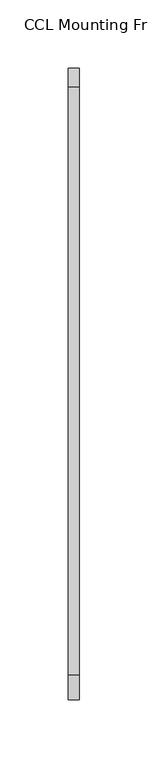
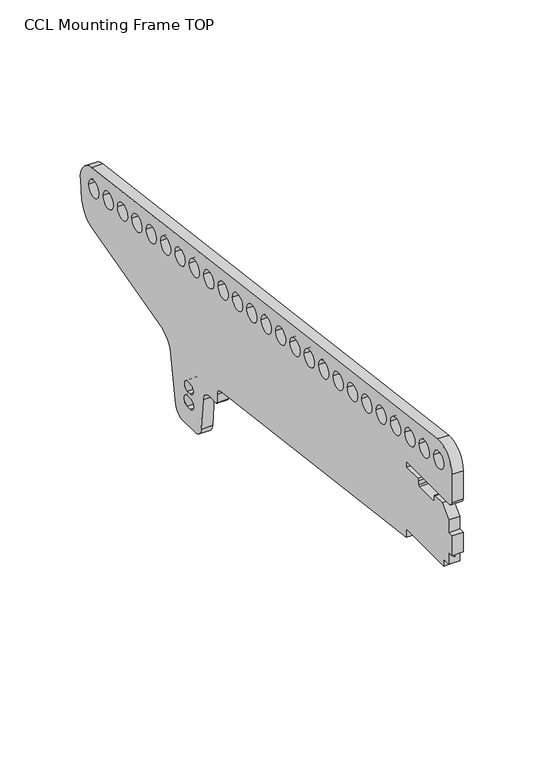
"""IFC4 building model written with IfcOpenShell, lengths in millimetres: proxy geometry, d&b CL-Series CCL Mounting Frame TOP : CCL Mounting Frame TOP."""

from ifc_helpers import new_model, si_unit, frame, origin, place, context, project, spatial, polyline, circle_curve, source, transform, mapped, element, save
from ifc_brep_helpers import plane_surface, cylinder_surface, revolved_surface, advanced_brep


def ccl_mounting_frame_top_1212049c(model_context):
    return source(origin(), model_context, "Body", "AdvancedBrep", [
        advanced_brep(
        [(4.0, 447.5191835, 40.9984373), (4.0, 18.0191835, 95.6377385), (4.0, 0.0, 79.7656593), (4.0, 0.0, 58.25), (4.0, 3.0, 55.25), (4.0, 56.5, 55.25), (4.0, 56.5, 50.75), (4.0, 42.5, 50.75), (4.0, 41.5, 49.75), (4.0, 41.5, 46.75), (4.0, 40.5, 45.75), (4.0, 23.0, 45.75), (4.0, 22.0, 46.75), (4.0, 22.0, 49.75), (4.0, 21.0, 50.75), (4.0, 12.0, 50.75), (4.0, 4.0, 42.75), (4.0, 4.0, 33.0), (4.0, 0.0, 33.0), (4.0, 0.0, 18.0), (4.0, 4.0, 18.0), (4.0, 4.0, 9.0), (4.0, 9.0, 9.0), (4.0, 10.0, 8.0), (4.0, 10.0, 4.0), (4.0, 56.5, 4.0), (4.0, 56.5, -2.3357687), (4.0, 287.4309948, -31.7139019), (4.0, 291.8, -36.6739266), (4.0, 291.8, -42.8), (4.0, 292.8, -43.8), (4.0, 301.1272837, -43.8), (4.0, 309.0968412, -51.1027541), (4.0, 311.1610918, -74.6972459), (4.0, 319.1306494, -82.0), (4.0, 335.087203, -82.0), (4.0, 342.965665, -75.3891854), (4.0, 349.1534198, -40.2966841), (4.0, 360.7692391, -27.6202417), (4.0, 447.8658924, -4.2827638), (4.0, 459.5968669, 9.1528659), (4.0, 461.3720792, 23.1071746), (4.0, 325.05, -49.15), (4.0, 328.55, -49.15), (4.0, 328.55, -56.45), (4.0, 325.05, -56.45), (4.0, 324.8, -60.1), (4.0, 328.8, -60.1), (4.0, 328.8, -67.9), (4.0, 324.8, -67.9), (4.0, 451.1518535, 26.1421065), (4.0, 438.6522274, 26.2104639), (4.0, 433.2957644, 28.4136879), (4.0, 420.7961383, 28.4820453), (4.0, 415.4396753, 30.6852694), (4.0, 402.9400492, 30.7536268), (4.0, 379.7274971, 35.2284323), (4.0, 367.227871, 35.2967897), (4.0, 361.8714081, 37.5000137), (4.0, 349.3717819, 37.5683711), (4.0, 344.015319, 39.7715952), (4.0, 331.5156928, 39.8399526), (4.0, 326.1592299, 42.0431766), (4.0, 313.6596037, 42.111534), (4.0, 308.3031408, 44.3147581), (4.0, 295.8035146, 44.3831154), (4.0, 290.4470517, 46.5863395), (4.0, 277.9474255, 46.6546969), (4.0, 272.5909626, 48.8579209), (4.0, 260.0913364, 48.9262783), (4.0, 254.7348735, 51.1295024), (4.0, 242.2352473, 51.1978598), (4.0, 236.8787844, 53.4010838), (4.0, 224.3791582, 53.4694412), (4.0, 219.0226953, 55.6726653), (4.0, 206.5230691, 55.7410227), (4.0, 201.1666062, 57.9442467), (4.0, 188.66698, 58.0126041), (4.0, 183.3105171, 60.2158282), (4.0, 170.8108909, 60.2841856), (4.0, 397.5835862, 32.9568508), (4.0, 385.0839601, 33.0252082), (4.0, 165.454428, 62.4874096), (4.0, 152.9548018, 62.555767), (4.0, 147.5983389, 64.7589911), (4.0, 135.0987128, 64.8273484), (4.0, 129.7422498, 67.0305725), (4.0, 117.2426237, 67.0989299), (4.0, 111.8861607, 69.3021539), (4.0, 99.3865346, 69.3705113), (4.0, 94.0300716, 71.5737354), (4.0, 81.5304455, 71.6420928), (4.0, 76.1739825, 73.8453168), (4.0, 63.6743564, 73.9136742), (4.0, 58.3178935, 76.1168983), (4.0, 45.8182673, 76.1852557), (4.0, 40.4618044, 78.3884797), (4.0, 27.9621782, 78.4568371), (4.0, 22.6057153, 80.6600612), (4.0, 10.1060891, 80.7284186), (-4.0, 447.5191835, 40.9984373), (-4.0, 461.3720792, 23.1071746), (-4.0, 459.5968669, 9.1528659), (-4.0, 447.8658924, -4.2827638), (-4.0, 360.7692391, -27.6202417), (-4.0, 349.1534198, -40.2966841), (-4.0, 342.965665, -75.3891854), (-4.0, 335.087203, -82.0), (-4.0, 319.1306494, -82.0), (-4.0, 311.1610918, -74.6972459), (-4.0, 309.0968412, -51.1027541), (-4.0, 301.1272837, -43.8), (-4.0, 292.8, -43.8), (-4.0, 291.8, -42.8), (-4.0, 291.8, -36.6739266), (-4.0, 287.4309948, -31.7139019), (-4.0, 56.5, -2.3357687), (-4.0, 56.5, 4.0), (-4.0, 10.0, 4.0), (-4.0, 10.0, 8.0), (-4.0, 9.0, 9.0), (-4.0, 4.0, 9.0), (-4.0, 4.0, 18.0), (-4.0, 0.0, 18.0), (-4.0, 0.0, 33.0), (-4.0, 4.0, 33.0), (-4.0, 4.0, 42.75), (-4.0, 12.0, 50.75), (-4.0, 21.0, 50.75), (-4.0, 22.0, 49.75), (-4.0, 22.0, 46.75), (-4.0, 23.0, 45.75), (-4.0, 40.5, 45.75), (-4.0, 41.5, 46.75), (-4.0, 41.5, 49.75), (-4.0, 42.5, 50.75), (-4.0, 56.5, 50.75), (-4.0, 56.5, 55.25), (-4.0, 3.0, 55.25), (-4.0, 0.0, 58.25), (-4.0, 0.0, 79.7656593), (-4.0, 18.0191835, 95.6377385), (-4.0, 325.05, -49.15), (-4.0, 325.05, -56.45), (-4.0, 328.55, -56.45), (-4.0, 328.55, -49.15), (-4.0, 324.8, -60.1), (-4.0, 324.8, -67.9), (-4.0, 328.8, -67.9), (-4.0, 328.8, -60.1), (-4.0, 451.1518535, 26.1421065), (-4.0, 438.6537226, 26.3471705), (-4.0, 433.2957644, 28.4136879), (-4.0, 420.7976335, 28.6187519), (-4.0, 415.4396753, 30.6852694), (-4.0, 402.9415444, 30.8903334), (-4.0, 379.7274971, 35.2284323), (-4.0, 367.2293663, 35.4334963), (-4.0, 361.8714081, 37.5000137), (-4.0, 349.3732772, 37.7050777), (-4.0, 344.015319, 39.7715952), (-4.0, 331.5171881, 39.9766592), (-4.0, 326.1592299, 42.0431766), (-4.0, 313.661099, 42.2482406), (-4.0, 308.3031408, 44.3147581), (-4.0, 295.8050099, 44.519822), (-4.0, 290.4470517, 46.5863395), (-4.0, 277.9489208, 46.7914035), (-4.0, 272.5909626, 48.8579209), (-4.0, 260.0928317, 49.0629849), (-4.0, 254.7348735, 51.1295024), (-4.0, 242.2367426, 51.3345664), (-4.0, 236.8787844, 53.4010838), (-4.0, 224.3806535, 53.6061478), (-4.0, 219.0226953, 55.6726653), (-4.0, 206.5245644, 55.8777293), (-4.0, 201.1666062, 57.9442467), (-4.0, 188.6684753, 58.1493107), (-4.0, 183.3105171, 60.2158282), (-4.0, 170.8123862, 60.4208922), (-4.0, 397.5835862, 32.9568508), (-4.0, 385.0854553, 33.1619148), (-4.0, 165.454428, 62.4874096), (-4.0, 152.9562971, 62.6924736), (-4.0, 147.5983389, 64.7589911), (-4.0, 135.100208, 64.964055), (-4.0, 129.7422498, 67.0305725), (-4.0, 117.2441189, 67.2356365), (-4.0, 111.8861607, 69.3021539), (-4.0, 99.3880298, 69.5072179), (-4.0, 94.0300716, 71.5737354), (-4.0, 81.5319407, 71.7787994), (-4.0, 76.1739825, 73.8453168), (-4.0, 63.6758517, 74.0503808), (-4.0, 58.3178935, 76.1168983), (-4.0, 45.8197626, 76.3219623), (-4.0, 40.4618044, 78.3884797), (-4.0, 27.9636735, 78.5935437), (-4.0, 22.6057153, 80.6600612), (-4.0, 10.1075844, 80.8651252)],
        [
            (0, 1),
            (1, 2, circle_curve(frame((4.0, 16.0, 79.7656593), z_axis=(1.0, 0.0, 0.0), x_axis=(0.0, 1.0, 0.0)), 16.0)),
            (2, 3),
            (3, 4, circle_curve(frame((4.0, 3.0, 58.25), z_axis=(1.0, 0.0, 0.0), x_axis=(0.0, 1.0, 0.0)), 3.0)),
            (4, 5),
            (5, 6),
            (6, 7),
            (7, 8, circle_curve(frame((4.0, 42.5, 49.75), z_axis=(1.0, 0.0, 0.0), x_axis=(0.0, 1.0, 0.0)), 1.0)),
            (8, 9),
            (9, 10, circle_curve(frame((4.0, 40.5, 46.75), z_axis=(-1.0, 0.0, 0.0), x_axis=(0.0, 1.0, 0.0)), 1.0)),
            (10, 11),
            (11, 12, circle_curve(frame((4.0, 23.0, 46.75), z_axis=(-1.0, 0.0, 0.0), x_axis=(0.0, 1.0, 0.0)), 1.0)),
            (12, 13),
            (13, 14, circle_curve(frame((4.0, 21.0, 49.75), z_axis=(1.0, 0.0, 0.0), x_axis=(0.0, 1.0, 0.0)), 1.0)),
            (14, 15),
            (15, 16),
            (16, 17),
            (17, 18),
            (18, 19),
            (19, 20),
            (20, 21),
            (21, 22),
            (22, 23, circle_curve(frame((4.0, 9.0, 8.0), z_axis=(-1.0, 0.0, 0.0), x_axis=(0.0, 1.0, 0.0)), 1.0)),
            (23, 24),
            (24, 25),
            (25, 26),
            (26, 27),
            (27, 28, circle_curve(frame((4.0, 286.8, -36.6739266), z_axis=(-1.0, 0.0, 0.0), x_axis=(0.0, 1.0, 0.0)), 5.0)),
            (28, 29),
            (29, 30, circle_curve(frame((4.0, 292.8, -42.8), z_axis=(1.0, 0.0, 0.0), x_axis=(0.0, 1.0, 0.0)), 1.0)),
            (30, 31),
            (31, 32, circle_curve(frame((4.0, 301.1272837, -51.8), z_axis=(-1.0, 0.0, 0.0), x_axis=(0.0, 1.0, 0.0)), 8.0)),
            (32, 33),
            (33, 34, circle_curve(frame((4.0, 319.1306494, -74.0), z_axis=(1.0, 0.0, 0.0), x_axis=(0.0, 1.0, 0.0)), 8.0)),
            (34, 35),
            (35, 36, circle_curve(frame((4.0, 335.087203, -74.0), z_axis=(1.0, 0.0, 0.0), x_axis=(0.0, 1.0, 0.0)), 8.0)),
            (36, 37),
            (37, 38, circle_curve(frame((4.0, 364.9103438, -43.0750549), z_axis=(-1.0, 0.0, 0.0), x_axis=(0.0, 1.0, 0.0)), 16.0)),
            (38, 39),
            (39, 40, circle_curve(frame((4.0, 443.7247877, 11.1720494), z_axis=(1.0, 0.0, 0.0), x_axis=(0.0, 1.0, 0.0)), 16.0)),
            (40, 41),
            (41, 0, circle_curve(frame((4.0, 445.5, 25.1263581), z_axis=(1.0, 0.0, 0.0), x_axis=(0.0, 1.0, 0.0)), 16.0)),
            (42, 43),
            (43, 44, circle_curve(frame((4.0, 328.55, -52.8), z_axis=(-1.0, 0.0, 0.0), x_axis=(0.0, 1.0, 0.0)), 3.65)),
            (44, 45),
            (45, 42, circle_curve(frame((4.0, 325.05, -52.8), z_axis=(-1.0, 0.0, 0.0), x_axis=(0.0, 1.0, 0.0)), 3.65)),
            (46, 47),
            (47, 48, circle_curve(frame((4.0, 328.8, -64.0), z_axis=(-1.0, 0.0, 0.0), x_axis=(0.0, 1.0, 0.0)), 3.9)),
            (48, 49),
            (49, 46, circle_curve(frame((4.0, 324.8, -64.0), z_axis=(-1.0, 0.0, 0.0), x_axis=(0.0, 1.0, 0.0)), 3.9)),
            (50, 51, circle_curve(frame((4.0, 444.9022274, 26.2104639), z_axis=(-1.0, 0.0, 0.0), x_axis=(0.0, 1.0, 0.0)), 6.25)),
            (51, 50, circle_curve(frame((4.0, 444.9022274, 26.2104639), z_axis=(-1.0, 0.0, 0.0), x_axis=(0.0, 1.0, 0.0)), 6.25)),
            (52, 53, circle_curve(frame((4.0, 427.0461383, 28.4820453), z_axis=(-1.0, 0.0, 0.0), x_axis=(0.0, 1.0, 0.0)), 6.25)),
            (53, 52, circle_curve(frame((4.0, 427.0461383, 28.4820453), z_axis=(-1.0, 0.0, 0.0), x_axis=(0.0, 1.0, 0.0)), 6.25)),
            (54, 55, circle_curve(frame((4.0, 409.1900492, 30.7536268), z_axis=(-1.0, 0.0, 0.0), x_axis=(0.0, 1.0, 0.0)), 6.25)),
            (55, 54, circle_curve(frame((4.0, 409.1900492, 30.7536268), z_axis=(-1.0, 0.0, 0.0), x_axis=(0.0, 1.0, 0.0)), 6.25)),
            (56, 57, circle_curve(frame((4.0, 373.477871, 35.2967897), z_axis=(-1.0, 0.0, 0.0), x_axis=(0.0, 1.0, 0.0)), 6.25)),
            (57, 56, circle_curve(frame((4.0, 373.477871, 35.2967897), z_axis=(-1.0, 0.0, 0.0), x_axis=(0.0, 1.0, 0.0)), 6.25)),
            (58, 59, circle_curve(frame((4.0, 355.6217819, 37.5683711), z_axis=(-1.0, 0.0, 0.0), x_axis=(0.0, 1.0, 0.0)), 6.25)),
            (59, 58, circle_curve(frame((4.0, 355.6217819, 37.5683711), z_axis=(-1.0, 0.0, 0.0), x_axis=(0.0, 1.0, 0.0)), 6.25)),
            (60, 61, circle_curve(frame((4.0, 337.7656928, 39.8399526), z_axis=(-1.0, 0.0, 0.0), x_axis=(0.0, 1.0, 0.0)), 6.25)),
            (61, 60, circle_curve(frame((4.0, 337.7656928, 39.8399526), z_axis=(-1.0, 0.0, 0.0), x_axis=(0.0, 1.0, 0.0)), 6.25)),
            (62, 63, circle_curve(frame((4.0, 319.9096037, 42.111534), z_axis=(-1.0, 0.0, 0.0), x_axis=(0.0, 1.0, 0.0)), 6.25)),
            (63, 62, circle_curve(frame((4.0, 319.9096037, 42.111534), z_axis=(-1.0, 0.0, 0.0), x_axis=(0.0, 1.0, 0.0)), 6.25)),
            (64, 65, circle_curve(frame((4.0, 302.0535146, 44.3831154), z_axis=(-1.0, 0.0, 0.0), x_axis=(0.0, 1.0, 0.0)), 6.25)),
            (65, 64, circle_curve(frame((4.0, 302.0535146, 44.3831154), z_axis=(-1.0, 0.0, 0.0), x_axis=(0.0, 1.0, 0.0)), 6.25)),
            (66, 67, circle_curve(frame((4.0, 284.1974255, 46.6546969), z_axis=(-1.0, 0.0, 0.0), x_axis=(0.0, 1.0, 0.0)), 6.25)),
            (67, 66, circle_curve(frame((4.0, 284.1974255, 46.6546969), z_axis=(-1.0, 0.0, 0.0), x_axis=(0.0, 1.0, 0.0)), 6.25)),
            (68, 69, circle_curve(frame((4.0, 266.3413364, 48.9262783), z_axis=(-1.0, 0.0, 0.0), x_axis=(0.0, 1.0, 0.0)), 6.25)),
            (69, 68, circle_curve(frame((4.0, 266.3413364, 48.9262783), z_axis=(-1.0, 0.0, 0.0), x_axis=(0.0, 1.0, 0.0)), 6.25)),
            (70, 71, circle_curve(frame((4.0, 248.4852473, 51.1978598), z_axis=(-1.0, 0.0, 0.0), x_axis=(0.0, 1.0, 0.0)), 6.25)),
            (71, 70, circle_curve(frame((4.0, 248.4852473, 51.1978598), z_axis=(-1.0, 0.0, 0.0), x_axis=(0.0, 1.0, 0.0)), 6.25)),
            (72, 73, circle_curve(frame((4.0, 230.6291582, 53.4694412), z_axis=(-1.0, 0.0, 0.0), x_axis=(0.0, 1.0, 0.0)), 6.25)),
            (73, 72, circle_curve(frame((4.0, 230.6291582, 53.4694412), z_axis=(-1.0, 0.0, 0.0), x_axis=(0.0, 1.0, 0.0)), 6.25)),
            (74, 75, circle_curve(frame((4.0, 212.7730691, 55.7410227), z_axis=(-1.0, 0.0, 0.0), x_axis=(0.0, 1.0, 0.0)), 6.25)),
            (75, 74, circle_curve(frame((4.0, 212.7730691, 55.7410227), z_axis=(-1.0, 0.0, 0.0), x_axis=(0.0, 1.0, 0.0)), 6.25)),
            (76, 77, circle_curve(frame((4.0, 194.91698, 58.0126041), z_axis=(-1.0, 0.0, 0.0), x_axis=(0.0, 1.0, 0.0)), 6.25)),
            (77, 76, circle_curve(frame((4.0, 194.91698, 58.0126041), z_axis=(-1.0, 0.0, 0.0), x_axis=(0.0, 1.0, 0.0)), 6.25)),
            (78, 79, circle_curve(frame((4.0, 177.0608909, 60.2841856), z_axis=(-1.0, 0.0, 0.0), x_axis=(0.0, 1.0, 0.0)), 6.25)),
            (79, 78, circle_curve(frame((4.0, 177.0608909, 60.2841856), z_axis=(-1.0, 0.0, 0.0), x_axis=(0.0, 1.0, 0.0)), 6.25)),
            (80, 81, circle_curve(frame((4.0, 391.3339601, 33.0252082), z_axis=(-1.0, 0.0, 0.0), x_axis=(0.0, 1.0, 0.0)), 6.25)),
            (81, 80, circle_curve(frame((4.0, 391.3339601, 33.0252082), z_axis=(-1.0, 0.0, 0.0), x_axis=(0.0, 1.0, 0.0)), 6.25)),
            (82, 83, circle_curve(frame((4.0, 159.2048018, 62.555767), z_axis=(-1.0, 0.0, 0.0), x_axis=(0.0, 1.0, 0.0)), 6.25)),
            (83, 82, circle_curve(frame((4.0, 159.2048018, 62.555767), z_axis=(-1.0, 0.0, 0.0), x_axis=(0.0, 1.0, 0.0)), 6.25)),
            (84, 85, circle_curve(frame((4.0, 141.3487128, 64.8273484), z_axis=(-1.0, 0.0, 0.0), x_axis=(0.0, 1.0, 0.0)), 6.25)),
            (85, 84, circle_curve(frame((4.0, 141.3487128, 64.8273484), z_axis=(-1.0, 0.0, 0.0), x_axis=(0.0, 1.0, 0.0)), 6.25)),
            (86, 87, circle_curve(frame((4.0, 123.4926237, 67.0989299), z_axis=(-1.0, 0.0, 0.0), x_axis=(0.0, 1.0, 0.0)), 6.25)),
            (87, 86, circle_curve(frame((4.0, 123.4926237, 67.0989299), z_axis=(-1.0, 0.0, 0.0), x_axis=(0.0, 1.0, 0.0)), 6.25)),
            (88, 89, circle_curve(frame((4.0, 105.6365346, 69.3705113), z_axis=(-1.0, 0.0, 0.0), x_axis=(0.0, 1.0, 0.0)), 6.25)),
            (89, 88, circle_curve(frame((4.0, 105.6365346, 69.3705113), z_axis=(-1.0, 0.0, 0.0), x_axis=(0.0, 1.0, 0.0)), 6.25)),
            (90, 91, circle_curve(frame((4.0, 87.7804455, 71.6420928), z_axis=(-1.0, 0.0, 0.0), x_axis=(0.0, 1.0, 0.0)), 6.25)),
            (91, 90, circle_curve(frame((4.0, 87.7804455, 71.6420928), z_axis=(-1.0, 0.0, 0.0), x_axis=(0.0, 1.0, 0.0)), 6.25)),
            (92, 93, circle_curve(frame((4.0, 69.9243564, 73.9136742), z_axis=(-1.0, 0.0, 0.0), x_axis=(0.0, 1.0, 0.0)), 6.25)),
            (93, 92, circle_curve(frame((4.0, 69.9243564, 73.9136742), z_axis=(-1.0, 0.0, 0.0), x_axis=(0.0, 1.0, 0.0)), 6.25)),
            (94, 95, circle_curve(frame((4.0, 52.0682673, 76.1852557), z_axis=(-1.0, 0.0, 0.0), x_axis=(0.0, 1.0, 0.0)), 6.25)),
            (95, 94, circle_curve(frame((4.0, 52.0682673, 76.1852557), z_axis=(-1.0, 0.0, 0.0), x_axis=(0.0, 1.0, 0.0)), 6.25)),
            (96, 97, circle_curve(frame((4.0, 34.2121782, 78.4568371), z_axis=(-1.0, 0.0, 0.0), x_axis=(0.0, 1.0, 0.0)), 6.25)),
            (97, 96, circle_curve(frame((4.0, 34.2121782, 78.4568371), z_axis=(-1.0, 0.0, 0.0), x_axis=(0.0, 1.0, 0.0)), 6.25)),
            (98, 99, circle_curve(frame((4.0, 16.3560891, 80.7284186), z_axis=(-1.0, 0.0, 0.0), x_axis=(0.0, 1.0, 0.0)), 6.25)),
            (99, 98, circle_curve(frame((4.0, 16.3560891, 80.7284186), z_axis=(-1.0, 0.0, 0.0), x_axis=(0.0, 1.0, 0.0)), 6.25)),
            (100, 101, circle_curve(frame((-4.0, 445.5, 25.1263581), z_axis=(-1.0, 0.0, 0.0), x_axis=(0.0, 1.0, 0.0)), 16.0)),
            (101, 102),
            (102, 103, circle_curve(frame((-4.0, 443.7247877, 11.1720494), z_axis=(-1.0, 0.0, 0.0), x_axis=(0.0, 1.0, 0.0)), 16.0)),
            (103, 104),
            (104, 105, circle_curve(frame((-4.0, 364.9103438, -43.0750549), z_axis=(1.0, 0.0, 0.0), x_axis=(0.0, 1.0, 0.0)), 16.0)),
            (105, 106),
            (106, 107, circle_curve(frame((-4.0, 335.087203, -74.0), z_axis=(-1.0, 0.0, 0.0), x_axis=(0.0, 1.0, 0.0)), 8.0)),
            (107, 108),
            (108, 109, circle_curve(frame((-4.0, 319.1306494, -74.0), z_axis=(-1.0, 0.0, 0.0), x_axis=(0.0, 1.0, 0.0)), 8.0)),
            (109, 110),
            (110, 111, circle_curve(frame((-4.0, 301.1272837, -51.8), z_axis=(1.0, 0.0, 0.0), x_axis=(0.0, 1.0, 0.0)), 8.0)),
            (111, 112),
            (112, 113, circle_curve(frame((-4.0, 292.8, -42.8), z_axis=(-1.0, 0.0, 0.0), x_axis=(0.0, 1.0, 0.0)), 1.0)),
            (113, 114),
            (114, 115, circle_curve(frame((-4.0, 286.8, -36.6739266), z_axis=(1.0, 0.0, 0.0), x_axis=(0.0, 1.0, 0.0)), 5.0)),
            (115, 116),
            (116, 117),
            (117, 118),
            (118, 119),
            (119, 120, circle_curve(frame((-4.0, 9.0, 8.0), z_axis=(1.0, 0.0, 0.0), x_axis=(0.0, 1.0, 0.0)), 1.0)),
            (120, 121),
            (121, 122),
            (122, 123),
            (123, 124),
            (124, 125),
            (125, 126),
            (126, 127),
            (127, 128),
            (128, 129, circle_curve(frame((-4.0, 21.0, 49.75), z_axis=(-1.0, 0.0, 0.0), x_axis=(0.0, 1.0, 0.0)), 1.0)),
            (129, 130),
            (130, 131, circle_curve(frame((-4.0, 23.0, 46.75), z_axis=(1.0, 0.0, 0.0), x_axis=(0.0, 1.0, 0.0)), 1.0)),
            (131, 132),
            (132, 133, circle_curve(frame((-4.0, 40.5, 46.75), z_axis=(1.0, 0.0, 0.0), x_axis=(0.0, 1.0, 0.0)), 1.0)),
            (133, 134),
            (134, 135, circle_curve(frame((-4.0, 42.5, 49.75), z_axis=(-1.0, 0.0, 0.0), x_axis=(0.0, 1.0, 0.0)), 1.0)),
            (135, 136),
            (136, 137),
            (137, 138),
            (138, 139, circle_curve(frame((-4.0, 3.0, 58.25), z_axis=(-1.0, 0.0, 0.0), x_axis=(0.0, 1.0, 0.0)), 3.0)),
            (139, 140),
            (140, 141, circle_curve(frame((-4.0, 16.0, 79.7656593), z_axis=(-1.0, 0.0, 0.0), x_axis=(0.0, 1.0, 0.0)), 16.0)),
            (141, 100),
            (142, 143, circle_curve(frame((-4.0, 325.05, -52.8), z_axis=(1.0, 0.0, 0.0), x_axis=(0.0, 1.0, 0.0)), 3.65)),
            (143, 144),
            (144, 145, circle_curve(frame((-4.0, 328.55, -52.8), z_axis=(1.0, 0.0, 0.0), x_axis=(0.0, 1.0, 0.0)), 3.65)),
            (145, 142),
            (146, 147, circle_curve(frame((-4.0, 324.8, -64.0), z_axis=(1.0, 0.0, 0.0), x_axis=(0.0, 1.0, 0.0)), 3.9)),
            (147, 148),
            (148, 149, circle_curve(frame((-4.0, 328.8, -64.0), z_axis=(1.0, 0.0, 0.0), x_axis=(0.0, 1.0, 0.0)), 3.9)),
            (149, 146),
            (150, 151, circle_curve(frame((-4.0, 444.9022274, 26.2104639), z_axis=(1.0, 0.0, 0.0), x_axis=(0.0, 1.0, 0.0)), 6.25)),
            (151, 150, circle_curve(frame((-4.0, 444.9022274, 26.2104639), z_axis=(1.0, 0.0, 0.0), x_axis=(0.0, 1.0, 0.0)), 6.25)),
            (152, 153, circle_curve(frame((-4.0, 427.0461383, 28.4820453), z_axis=(1.0, 0.0, 0.0), x_axis=(0.0, 1.0, 0.0)), 6.25)),
            (153, 152, circle_curve(frame((-4.0, 427.0461383, 28.4820453), z_axis=(1.0, 0.0, 0.0), x_axis=(0.0, 1.0, 0.0)), 6.25)),
            (154, 155, circle_curve(frame((-4.0, 409.1900492, 30.7536268), z_axis=(1.0, 0.0, 0.0), x_axis=(0.0, 1.0, 0.0)), 6.25)),
            (155, 154, circle_curve(frame((-4.0, 409.1900492, 30.7536268), z_axis=(1.0, 0.0, 0.0), x_axis=(0.0, 1.0, 0.0)), 6.25)),
            (156, 157, circle_curve(frame((-4.0, 373.477871, 35.2967897), z_axis=(1.0, 0.0, 0.0), x_axis=(0.0, 1.0, 0.0)), 6.25)),
            (157, 156, circle_curve(frame((-4.0, 373.477871, 35.2967897), z_axis=(1.0, 0.0, 0.0), x_axis=(0.0, 1.0, 0.0)), 6.25)),
            (158, 159, circle_curve(frame((-4.0, 355.6217819, 37.5683711), z_axis=(1.0, 0.0, 0.0), x_axis=(0.0, 1.0, 0.0)), 6.25)),
            (159, 158, circle_curve(frame((-4.0, 355.6217819, 37.5683711), z_axis=(1.0, 0.0, 0.0), x_axis=(0.0, 1.0, 0.0)), 6.25)),
            (160, 161, circle_curve(frame((-4.0, 337.7656928, 39.8399526), z_axis=(1.0, 0.0, 0.0), x_axis=(0.0, 1.0, 0.0)), 6.25)),
            (161, 160, circle_curve(frame((-4.0, 337.7656928, 39.8399526), z_axis=(1.0, 0.0, 0.0), x_axis=(0.0, 1.0, 0.0)), 6.25)),
            (162, 163, circle_curve(frame((-4.0, 319.9096037, 42.111534), z_axis=(1.0, 0.0, 0.0), x_axis=(0.0, 1.0, 0.0)), 6.25)),
            (163, 162, circle_curve(frame((-4.0, 319.9096037, 42.111534), z_axis=(1.0, 0.0, 0.0), x_axis=(0.0, 1.0, 0.0)), 6.25)),
            (164, 165, circle_curve(frame((-4.0, 302.0535146, 44.3831154), z_axis=(1.0, 0.0, 0.0), x_axis=(0.0, 1.0, 0.0)), 6.25)),
            (165, 164, circle_curve(frame((-4.0, 302.0535146, 44.3831154), z_axis=(1.0, 0.0, 0.0), x_axis=(0.0, 1.0, 0.0)), 6.25)),
            (166, 167, circle_curve(frame((-4.0, 284.1974255, 46.6546969), z_axis=(1.0, 0.0, 0.0), x_axis=(0.0, 1.0, 0.0)), 6.25)),
            (167, 166, circle_curve(frame((-4.0, 284.1974255, 46.6546969), z_axis=(1.0, 0.0, 0.0), x_axis=(0.0, 1.0, 0.0)), 6.25)),
            (168, 169, circle_curve(frame((-4.0, 266.3413364, 48.9262783), z_axis=(1.0, 0.0, 0.0), x_axis=(0.0, 1.0, 0.0)), 6.25)),
            (169, 168, circle_curve(frame((-4.0, 266.3413364, 48.9262783), z_axis=(1.0, 0.0, 0.0), x_axis=(0.0, 1.0, 0.0)), 6.25)),
            (170, 171, circle_curve(frame((-4.0, 248.4852473, 51.1978598), z_axis=(1.0, 0.0, 0.0), x_axis=(0.0, 1.0, 0.0)), 6.25)),
            (171, 170, circle_curve(frame((-4.0, 248.4852473, 51.1978598), z_axis=(1.0, 0.0, 0.0), x_axis=(0.0, 1.0, 0.0)), 6.25)),
            (172, 173, circle_curve(frame((-4.0, 230.6291582, 53.4694412), z_axis=(1.0, 0.0, 0.0), x_axis=(0.0, 1.0, 0.0)), 6.25)),
            (173, 172, circle_curve(frame((-4.0, 230.6291582, 53.4694412), z_axis=(1.0, 0.0, 0.0), x_axis=(0.0, 1.0, 0.0)), 6.25)),
            (174, 175, circle_curve(frame((-4.0, 212.7730691, 55.7410227), z_axis=(1.0, 0.0, 0.0), x_axis=(0.0, 1.0, 0.0)), 6.25)),
            (175, 174, circle_curve(frame((-4.0, 212.7730691, 55.7410227), z_axis=(1.0, 0.0, 0.0), x_axis=(0.0, 1.0, 0.0)), 6.25)),
            (176, 177, circle_curve(frame((-4.0, 194.91698, 58.0126041), z_axis=(1.0, 0.0, 0.0), x_axis=(0.0, 1.0, 0.0)), 6.25)),
            (177, 176, circle_curve(frame((-4.0, 194.91698, 58.0126041), z_axis=(1.0, 0.0, 0.0), x_axis=(0.0, 1.0, 0.0)), 6.25)),
            (178, 179, circle_curve(frame((-4.0, 177.0608909, 60.2841856), z_axis=(1.0, 0.0, 0.0), x_axis=(0.0, 1.0, 0.0)), 6.25)),
            (179, 178, circle_curve(frame((-4.0, 177.0608909, 60.2841856), z_axis=(1.0, 0.0, 0.0), x_axis=(0.0, 1.0, 0.0)), 6.25)),
            (180, 181, circle_curve(frame((-4.0, 391.3339601, 33.0252082), z_axis=(1.0, 0.0, 0.0), x_axis=(0.0, 1.0, 0.0)), 6.25)),
            (181, 180, circle_curve(frame((-4.0, 391.3339601, 33.0252082), z_axis=(1.0, 0.0, 0.0), x_axis=(0.0, 1.0, 0.0)), 6.25)),
            (182, 183, circle_curve(frame((-4.0, 159.2048018, 62.555767), z_axis=(1.0, 0.0, 0.0), x_axis=(0.0, 1.0, 0.0)), 6.25)),
            (183, 182, circle_curve(frame((-4.0, 159.2048018, 62.555767), z_axis=(1.0, 0.0, 0.0), x_axis=(0.0, 1.0, 0.0)), 6.25)),
            (184, 185, circle_curve(frame((-4.0, 141.3487128, 64.8273484), z_axis=(1.0, 0.0, 0.0), x_axis=(0.0, 1.0, 0.0)), 6.25)),
            (185, 184, circle_curve(frame((-4.0, 141.3487128, 64.8273484), z_axis=(1.0, 0.0, 0.0), x_axis=(0.0, 1.0, 0.0)), 6.25)),
            (186, 187, circle_curve(frame((-4.0, 123.4926237, 67.0989299), z_axis=(1.0, 0.0, 0.0), x_axis=(0.0, 1.0, 0.0)), 6.25)),
            (187, 186, circle_curve(frame((-4.0, 123.4926237, 67.0989299), z_axis=(1.0, 0.0, 0.0), x_axis=(0.0, 1.0, 0.0)), 6.25)),
            (188, 189, circle_curve(frame((-4.0, 105.6365346, 69.3705113), z_axis=(1.0, 0.0, 0.0), x_axis=(0.0, 1.0, 0.0)), 6.25)),
            (189, 188, circle_curve(frame((-4.0, 105.6365346, 69.3705113), z_axis=(1.0, 0.0, 0.0), x_axis=(0.0, 1.0, 0.0)), 6.25)),
            (190, 191, circle_curve(frame((-4.0, 87.7804455, 71.6420928), z_axis=(1.0, 0.0, 0.0), x_axis=(0.0, 1.0, 0.0)), 6.25)),
            (191, 190, circle_curve(frame((-4.0, 87.7804455, 71.6420928), z_axis=(1.0, 0.0, 0.0), x_axis=(0.0, 1.0, 0.0)), 6.25)),
            (192, 193, circle_curve(frame((-4.0, 69.9243564, 73.9136742), z_axis=(1.0, 0.0, 0.0), x_axis=(0.0, 1.0, 0.0)), 6.25)),
            (193, 192, circle_curve(frame((-4.0, 69.9243564, 73.9136742), z_axis=(1.0, 0.0, 0.0), x_axis=(0.0, 1.0, 0.0)), 6.25)),
            (194, 195, circle_curve(frame((-4.0, 52.0682673, 76.1852557), z_axis=(1.0, 0.0, 0.0), x_axis=(0.0, 1.0, 0.0)), 6.25)),
            (195, 194, circle_curve(frame((-4.0, 52.0682673, 76.1852557), z_axis=(1.0, 0.0, 0.0), x_axis=(0.0, 1.0, 0.0)), 6.25)),
            (196, 197, circle_curve(frame((-4.0, 34.2121782, 78.4568371), z_axis=(1.0, 0.0, 0.0), x_axis=(0.0, 1.0, 0.0)), 6.25)),
            (197, 196, circle_curve(frame((-4.0, 34.2121782, 78.4568371), z_axis=(1.0, 0.0, 0.0), x_axis=(0.0, 1.0, 0.0)), 6.25)),
            (198, 199, circle_curve(frame((-4.0, 16.3560891, 80.7284186), z_axis=(1.0, 0.0, 0.0), x_axis=(0.0, 1.0, 0.0)), 6.25)),
            (199, 198, circle_curve(frame((-4.0, 16.3560891, 80.7284186), z_axis=(1.0, 0.0, 0.0), x_axis=(0.0, 1.0, 0.0)), 6.25)),
            (0, 100),
            (141, 1),
            (140, 2),
            (139, 3),
            (138, 4),
            (137, 5),
            (6, 136),
            (135, 7),
            (134, 8),
            (133, 9),
            (132, 10),
            (131, 11),
            (130, 12),
            (129, 13),
            (128, 14),
            (127, 15),
            (126, 16),
            (125, 17),
            (124, 18),
            (123, 19),
            (122, 20),
            (121, 21),
            (120, 22),
            (119, 23),
            (118, 24),
            (26, 116),
            (115, 27),
            (114, 28),
            (113, 29),
            (112, 30),
            (111, 31),
            (110, 32),
            (109, 33),
            (108, 34),
            (107, 35),
            (106, 36),
            (105, 37),
            (104, 38),
            (103, 39),
            (102, 40),
            (101, 41),
            (42, 142),
            (145, 43),
            (144, 44),
            (143, 45),
            (46, 146),
            (149, 47),
            (148, 48),
            (147, 49),
            (50, 150),
            (151, 51),
            (52, 152),
            (153, 53),
            (54, 154),
            (155, 55),
            (56, 156),
            (157, 57),
            (58, 158),
            (159, 59),
            (60, 160),
            (161, 61),
            (62, 162),
            (163, 63),
            (64, 164),
            (165, 65),
            (66, 166),
            (167, 67),
            (68, 168),
            (169, 69),
            (70, 170),
            (171, 71),
            (72, 172),
            (173, 73),
            (74, 174),
            (175, 75),
            (76, 176),
            (177, 77),
            (78, 178),
            (179, 79),
            (80, 180),
            (181, 81),
            (82, 182),
            (183, 83),
            (84, 184),
            (185, 85),
            (86, 186),
            (187, 87),
            (88, 188),
            (189, 89),
            (90, 190),
            (191, 91),
            (92, 192),
            (193, 93),
            (94, 194),
            (195, 95),
            (96, 196),
            (197, 97),
            (98, 198),
            (199, 99),
            (117, 25),
        ],
        [
            plane_surface(frame((4.0, 18.0191835, 95.6377385), z_axis=(1.0, 0.0, 0.0), x_axis=(0.0, -0.9920049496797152, 0.12619896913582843))),
            plane_surface(frame((-4.0, 18.0191835, 95.6377385), z_axis=(-1.0, 0.0, 0.0), x_axis=(0.0, 0.9920049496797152, -0.12619896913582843))),
            plane_surface(frame((4.0, 447.5191835, 40.9984373), z_axis=(0.0, 0.12619896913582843, 0.9920049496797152), x_axis=(-1.0, 0.0, 0.0))),
            cylinder_surface(frame((-4.0, 16.0, 79.7656593), z_axis=(1.0, 0.0, 0.0), x_axis=(0.0, 1.0, 0.0)), 16.0),
            plane_surface(frame((4.0, 0.0, 79.7656593), z_axis=(0.0, -1.0, 0.0), x_axis=(-1.0, 0.0, 0.0))),
            cylinder_surface(frame((-4.0, 3.0, 58.25), z_axis=(1.0, 0.0, 0.0), x_axis=(0.0, 1.0, 0.0)), 3.0),
            plane_surface(frame((4.0, 3.0, 55.25), z_axis=(0.0, 0.0, -1.0), x_axis=(-1.0, 0.0, 0.0))),
            plane_surface(frame((4.0, 56.5, 50.75), z_axis=(0.0, 0.0, 1.0), x_axis=(-1.0, 0.0, 0.0))),
            cylinder_surface(frame((-4.0, 42.5, 49.75), z_axis=(1.0, 0.0, 0.0), x_axis=(0.0, 1.0, 0.0)), 1.0),
            plane_surface(frame((4.0, 41.5, 49.75), z_axis=(0.0, -1.0, 0.0), x_axis=(-1.0, 0.0, 0.0))),
            revolved_surface(polyline([(-4.0, 41.5, 46.75), (4.0, 41.5, 46.75)]), (-4.0, 40.5, 46.75), (-1.0, 0.0, 0.0)),
            plane_surface(frame((4.0, 40.5, 45.75), z_axis=(0.0, 0.0, 1.0), x_axis=(-1.0, 0.0, 0.0))),
            revolved_surface(polyline([(-4.0, 24.0, 46.75), (4.0, 24.0, 46.75)]), (-4.0, 23.0, 46.75), (-1.0, 0.0, 0.0)),
            plane_surface(frame((4.0, 22.0, 46.75), z_axis=(0.0, 1.0, 0.0), x_axis=(-1.0, 0.0, 0.0))),
            cylinder_surface(frame((-4.0, 21.0, 49.75), z_axis=(1.0, 0.0, 0.0), x_axis=(0.0, 1.0, 0.0)), 1.0),
            plane_surface(frame((4.0, 21.0, 50.75), z_axis=(0.0, 0.0, 1.0), x_axis=(-1.0, 0.0, 0.0))),
            plane_surface(frame((4.0, 12.0, 50.75), z_axis=(0.0, -0.7071067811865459, 0.7071067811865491), x_axis=(-1.0, 0.0, 0.0))),
            plane_surface(frame((4.0, 4.0, 42.75), z_axis=(0.0, -1.0, 0.0), x_axis=(-1.0, 0.0, 0.0))),
            plane_surface(frame((4.0, 4.0, 33.0), z_axis=(0.0, 0.0, 1.0), x_axis=(-1.0, 0.0, 0.0))),
            plane_surface(frame((4.0, 0.0, 33.0), z_axis=(0.0, -1.0, 0.0), x_axis=(-1.0, 0.0, 0.0))),
            plane_surface(frame((4.0, 0.0, 18.0), z_axis=(0.0, 0.0, -1.0), x_axis=(-1.0, 0.0, 0.0))),
            plane_surface(frame((4.0, 4.0, 18.0), z_axis=(0.0, -1.0, 0.0), x_axis=(-1.0, 0.0, 0.0))),
            plane_surface(frame((4.0, 4.0, 9.0), z_axis=(0.0, 0.0, -1.0), x_axis=(-1.0, 0.0, 0.0))),
            revolved_surface(polyline([(-4.0, 10.0, 8.0), (4.0, 10.0, 8.0)]), (-4.0, 9.0, 8.0), (-1.0, 0.0, 0.0)),
            plane_surface(frame((4.0, 10.0, 8.0), z_axis=(0.0, -1.0, 0.0), x_axis=(-1.0, 0.0, 0.0))),
            plane_surface(frame((4.0, 56.5, -2.3357687), z_axis=(0.0, -0.12619896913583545, -0.9920049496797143), x_axis=(-1.0, 0.0, 0.0))),
            revolved_surface(polyline([(-4.0, 291.8, -36.6739266), (4.0, 291.8, -36.6739266)]), (-4.0, 286.8, -36.6739266), (-1.0, 0.0, 0.0)),
            plane_surface(frame((4.0, 291.8, -36.6739266), z_axis=(0.0, -1.0, 0.0), x_axis=(-1.0, 0.0, 0.0))),
            cylinder_surface(frame((-4.0, 292.8, -42.8), z_axis=(1.0, 0.0, 0.0), x_axis=(0.0, 1.0, 0.0)), 1.0),
            plane_surface(frame((4.0, 292.8, -43.8), z_axis=(0.0, 0.0, -1.0), x_axis=(-1.0, 0.0, 0.0))),
            revolved_surface(polyline([(-4.0, 309.1272837, -51.8), (4.0, 309.1272837, -51.8)]), (-4.0, 301.1272837, -51.8), (-1.0, 0.0, 0.0)),
            plane_surface(frame((4.0, 309.0968412, -51.1027541), z_axis=(0.0, -0.9961946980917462, -0.08715574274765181), x_axis=(-1.0, 0.0, 0.0))),
            cylinder_surface(frame((-4.0, 319.1306494, -74.0), z_axis=(1.0, 0.0, 0.0), x_axis=(0.0, 1.0, 0.0)), 8.0),
            plane_surface(frame((4.0, 319.1306494, -82.0), z_axis=(0.0, 0.0, -1.0), x_axis=(-1.0, 0.0, 0.0))),
            cylinder_surface(frame((-4.0, 335.087203, -74.0), z_axis=(1.0, 0.0, 0.0), x_axis=(0.0, 1.0, 0.0)), 8.0),
            plane_surface(frame((4.0, 342.965665, -75.3891854), z_axis=(0.0, 0.9848077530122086, -0.1736481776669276), x_axis=(-1.0, 0.0, 0.0))),
            revolved_surface(polyline([(-4.0, 380.9103438, -43.0750549), (4.0, 380.9103438, -43.0750549)]), (-4.0, 364.9103438, -43.0750549), (-1.0, 0.0, 0.0)),
            plane_surface(frame((4.0, 360.7692391, -27.6202417), z_axis=(0.0, 0.25881904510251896, -0.9659258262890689), x_axis=(-1.0, 0.0, 0.0))),
            cylinder_surface(frame((-4.0, 443.7247877, 11.1720494), z_axis=(1.0, 0.0, 0.0), x_axis=(0.0, 1.0, 0.0)), 16.0),
            plane_surface(frame((4.0, 459.5968669, 9.1528659), z_axis=(0.0, 0.9920049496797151, -0.126198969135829), x_axis=(-1.0, 0.0, 0.0))),
            cylinder_surface(frame((-4.0, 445.5, 25.1263581), z_axis=(1.0, 0.0, 0.0), x_axis=(0.0, 1.0, 0.0)), 16.0),
            plane_surface(frame((4.0, 325.05, -49.15), z_axis=(0.0, 0.0, -1.0), x_axis=(-1.0, 0.0, 0.0))),
            revolved_surface(polyline([(-4.0, 332.2, -52.8), (4.0, 332.2, -52.8)]), (0.0, 328.55, -52.8), (-1.0, 0.0, 0.0)),
            plane_surface(frame((4.0, 328.55, -56.45), z_axis=(0.0, 0.0, 1.0), x_axis=(-1.0, 0.0, 0.0))),
            revolved_surface(polyline([(-4.0, 328.7, -52.8), (4.0, 328.7, -52.8)]), (0.0, 325.05, -52.8), (-1.0, 0.0, 0.0)),
            plane_surface(frame((4.0, 324.8, -60.1), z_axis=(0.0, 0.0, -1.0), x_axis=(-1.0, 0.0, 0.0))),
            revolved_surface(polyline([(-4.0, 332.7, -64.0), (4.0, 332.7, -64.0)]), (0.0, 328.8, -64.0), (-1.0, 0.0, 0.0)),
            plane_surface(frame((4.0, 328.8, -67.9), z_axis=(0.0, 0.0, 1.0), x_axis=(-1.0, 0.0, 0.0))),
            revolved_surface(polyline([(-4.0, 328.7, -64.0), (4.0, 328.7, -64.0)]), (0.0, 324.8, -64.0), (-1.0, 0.0, 0.0)),
            revolved_surface(polyline([(-4.0, 451.1522274, 26.2104639), (4.0, 451.1522274, 26.2104639)]), (0.0, 444.9022274, 26.2104639), (-1.0, 0.0, 0.0)),
            revolved_surface(polyline([(-4.0, 433.2961383, 28.4820453), (4.0, 433.2961383, 28.4820453)]), (0.0, 427.0461383, 28.4820453), (-1.0, 0.0, 0.0)),
            revolved_surface(polyline([(-4.0, 415.4400492, 30.7536268), (4.0, 415.4400492, 30.7536268)]), (0.0, 409.1900492, 30.7536268), (-1.0, 0.0, 0.0)),
            revolved_surface(polyline([(-4.0, 379.727871, 35.2967897), (4.0, 379.727871, 35.2967897)]), (0.0, 373.477871, 35.2967897), (-1.0, 0.0, 0.0)),
            revolved_surface(polyline([(-4.0, 361.8717819, 37.5683711), (4.0, 361.8717819, 37.5683711)]), (0.0, 355.6217819, 37.5683711), (-1.0, 0.0, 0.0)),
            revolved_surface(polyline([(-4.0, 344.0156928, 39.8399526), (4.0, 344.0156928, 39.8399526)]), (0.0, 337.7656928, 39.8399526), (-1.0, 0.0, 0.0)),
            revolved_surface(polyline([(-4.0, 326.1596037, 42.111534), (4.0, 326.1596037, 42.111534)]), (0.0, 319.9096037, 42.111534), (-1.0, 0.0, 0.0)),
            revolved_surface(polyline([(-4.0, 308.3035146, 44.3831154), (4.0, 308.3035146, 44.3831154)]), (0.0, 302.0535146, 44.3831154), (-1.0, 0.0, 0.0)),
            revolved_surface(polyline([(-4.0, 290.4474255, 46.6546969), (4.0, 290.4474255, 46.6546969)]), (0.0, 284.1974255, 46.6546969), (-1.0, 0.0, 0.0)),
            revolved_surface(polyline([(-4.0, 272.5913364, 48.9262783), (4.0, 272.5913364, 48.9262783)]), (0.0, 266.3413364, 48.9262783), (-1.0, 0.0, 0.0)),
            revolved_surface(polyline([(-4.0, 254.7352473, 51.1978598), (4.0, 254.7352473, 51.1978598)]), (0.0, 248.4852473, 51.1978598), (-1.0, 0.0, 0.0)),
            revolved_surface(polyline([(-4.0, 236.8791582, 53.4694412), (4.0, 236.8791582, 53.4694412)]), (0.0, 230.6291582, 53.4694412), (-1.0, 0.0, 0.0)),
            revolved_surface(polyline([(-4.0, 219.0230691, 55.7410227), (4.0, 219.0230691, 55.7410227)]), (0.0, 212.7730691, 55.7410227), (-1.0, 0.0, 0.0)),
            revolved_surface(polyline([(-4.0, 201.16698, 58.0126041), (4.0, 201.16698, 58.0126041)]), (0.0, 194.91698, 58.0126041), (-1.0, 0.0, 0.0)),
            revolved_surface(polyline([(-4.0, 183.3108909, 60.2841856), (4.0, 183.3108909, 60.2841856)]), (0.0, 177.0608909, 60.2841856), (-1.0, 0.0, 0.0)),
            revolved_surface(polyline([(-4.0, 397.5839601, 33.0252082), (4.0, 397.5839601, 33.0252082)]), (0.0, 391.3339601, 33.0252082), (-1.0, 0.0, 0.0)),
            revolved_surface(polyline([(-4.0, 165.4548018, 62.555767), (4.0, 165.4548018, 62.555767)]), (0.0, 159.2048018, 62.555767), (-1.0, 0.0, 0.0)),
            revolved_surface(polyline([(-4.0, 147.5987128, 64.8273484), (4.0, 147.5987128, 64.8273484)]), (0.0, 141.3487128, 64.8273484), (-1.0, 0.0, 0.0)),
            revolved_surface(polyline([(-4.0, 129.7426237, 67.0989299), (4.0, 129.7426237, 67.0989299)]), (0.0, 123.4926237, 67.0989299), (-1.0, 0.0, 0.0)),
            revolved_surface(polyline([(-4.0, 111.8865346, 69.3705113), (4.0, 111.8865346, 69.3705113)]), (0.0, 105.6365346, 69.3705113), (-1.0, 0.0, 0.0)),
            revolved_surface(polyline([(-4.0, 94.0304455, 71.6420928), (4.0, 94.0304455, 71.6420928)]), (0.0, 87.7804455, 71.6420928), (-1.0, 0.0, 0.0)),
            revolved_surface(polyline([(-4.0, 76.1743564, 73.9136742), (4.0, 76.1743564, 73.9136742)]), (0.0, 69.9243564, 73.9136742), (-1.0, 0.0, 0.0)),
            revolved_surface(polyline([(-4.0, 58.3182673, 76.1852557), (4.0, 58.3182673, 76.1852557)]), (0.0, 52.0682673, 76.1852557), (-1.0, 0.0, 0.0)),
            revolved_surface(polyline([(-4.0, 40.4621782, 78.4568371), (4.0, 40.4621782, 78.4568371)]), (0.0, 34.2121782, 78.4568371), (-1.0, 0.0, 0.0)),
            revolved_surface(polyline([(-4.0, 22.6060891, 80.7284186), (4.0, 22.6060891, 80.7284186)]), (0.0, 16.3560891, 80.7284186), (-1.0, 0.0, 0.0)),
            plane_surface(frame((4.0, 10.0, 4.0), z_axis=(0.0, 0.0, -1.0), x_axis=(-1.0, 0.0, 0.0))),
            plane_surface(frame((4.0, 56.5, 4.0), z_axis=(0.0, -1.0, 0.0), x_axis=(-1.0, 0.0, 0.0))),
            plane_surface(frame((4.0, 56.5, 55.25), z_axis=(0.0, -1.0, 0.0), x_axis=(-1.0, 0.0, 0.0))),
        ],
        [
            (0, [[1, 2, 3, 4, 5, 6, 7, 8, 9, 10, 11, 12, 13, 14, 15, 16, 17, 18, 19, 20, 21, 22, 23, 24, 25, 26, 27, 28, 29, 30, 31, 32, 33, 34, 35, 36, 37, 38, 39, 40, 41, 42], [43, 44, 45, 46], [47, 48, 49, 50], [51, 52], [53, 54], [55, 56], [57, 58], [59, 60], [61, 62], [63, 64], [65, 66], [67, 68], [69, 70], [71, 72], [73, 74], [75, 76], [77, 78], [79, 80], [81, 82], [83, 84], [85, 86], [87, 88], [89, 90], [91, 92], [93, 94], [95, 96], [97, 98], [99, 100]]),
            (1, [[101, 102, 103, 104, 105, 106, 107, 108, 109, 110, 111, 112, 113, 114, 115, 116, 117, 118, 119, 120, 121, 122, 123, 124, 125, 126, 127, 128, 129, 130, 131, 132, 133, 134, 135, 136, 137, 138, 139, 140, 141, 142], [143, 144, 145, 146], [147, 148, 149, 150], [151, 152], [153, 154], [155, 156], [157, 158], [159, 160], [161, 162], [163, 164], [165, 166], [167, 168], [169, 170], [171, 172], [173, 174], [175, 176], [177, 178], [179, 180], [181, 182], [183, 184], [185, 186], [187, 188], [189, 190], [191, 192], [193, 194], [195, 196], [197, 198], [199, 200]]),
            (2, [[-1, 201, -142, 202]]),
            (3, [[-2, -202, -141, 203]]),
            (4, [[-3, -203, -140, 204]]),
            (5, [[-4, -204, -139, 205]]),
            (6, [[-5, -205, -138, 206]]),
            (7, [[-7, 207, -136, 208]]),
            (8, [[-8, -208, -135, 209]]),
            (9, [[-9, -209, -134, 210]]),
            (10, [[-10, -210, -133, 211]]),
            (11, [[-11, -211, -132, 212]]),
            (12, [[-12, -212, -131, 213]]),
            (13, [[-13, -213, -130, 214]]),
            (14, [[-14, -214, -129, 215]]),
            (15, [[-15, -215, -128, 216]]),
            (16, [[-16, -216, -127, 217]]),
            (17, [[-17, -217, -126, 218]]),
            (18, [[-18, -218, -125, 219]]),
            (19, [[-19, -219, -124, 220]]),
            (20, [[-20, -220, -123, 221]]),
            (21, [[-21, -221, -122, 222]]),
            (22, [[-22, -222, -121, 223]]),
            (23, [[-23, -223, -120, 224]]),
            (24, [[-24, -224, -119, 225]]),
            (25, [[-27, 226, -116, 227]]),
            (26, [[-28, -227, -115, 228]]),
            (27, [[-29, -228, -114, 229]]),
            (28, [[-30, -229, -113, 230]]),
            (29, [[-31, -230, -112, 231]]),
            (30, [[-32, -231, -111, 232]]),
            (31, [[-33, -232, -110, 233]]),
            (32, [[-34, -233, -109, 234]]),
            (33, [[-35, -234, -108, 235]]),
            (34, [[-36, -235, -107, 236]]),
            (35, [[-37, -236, -106, 237]]),
            (36, [[-38, -237, -105, 238]]),
            (37, [[-39, -238, -104, 239]]),
            (38, [[-40, -239, -103, 240]]),
            (39, [[-41, -240, -102, 241]]),
            (40, [[-42, -241, -101, -201]]),
            (41, [[-43, 242, -146, 243]]),
            (42, [[-44, -243, -145, 244]]),
            (43, [[-45, -244, -144, 245]]),
            (44, [[-46, -245, -143, -242]]),
            (45, [[-47, 246, -150, 247]]),
            (46, [[-48, -247, -149, 248]]),
            (47, [[-49, -248, -148, 249]]),
            (48, [[-50, -249, -147, -246]]),
            (49, [[-51, 250, -152, 251]]),
            (49, [[-52, -251, -151, -250]]),
            (50, [[-53, 252, -154, 253]]),
            (50, [[-54, -253, -153, -252]]),
            (51, [[-55, 254, -156, 255]]),
            (51, [[-56, -255, -155, -254]]),
            (52, [[-57, 256, -158, 257]]),
            (52, [[-58, -257, -157, -256]]),
            (53, [[-59, 258, -160, 259]]),
            (53, [[-60, -259, -159, -258]]),
            (54, [[-61, 260, -162, 261]]),
            (54, [[-62, -261, -161, -260]]),
            (55, [[-63, 262, -164, 263]]),
            (55, [[-64, -263, -163, -262]]),
            (56, [[-65, 264, -166, 265]]),
            (56, [[-66, -265, -165, -264]]),
            (57, [[-67, 266, -168, 267]]),
            (57, [[-68, -267, -167, -266]]),
            (58, [[-69, 268, -170, 269]]),
            (58, [[-70, -269, -169, -268]]),
            (59, [[-71, 270, -172, 271]]),
            (59, [[-72, -271, -171, -270]]),
            (60, [[-73, 272, -174, 273]]),
            (60, [[-74, -273, -173, -272]]),
            (61, [[-75, 274, -176, 275]]),
            (61, [[-76, -275, -175, -274]]),
            (62, [[-77, 276, -178, 277]]),
            (62, [[-78, -277, -177, -276]]),
            (63, [[-79, 278, -180, 279]]),
            (63, [[-80, -279, -179, -278]]),
            (64, [[-81, 280, -182, 281]]),
            (64, [[-82, -281, -181, -280]]),
            (65, [[-83, 282, -184, 283]]),
            (65, [[-84, -283, -183, -282]]),
            (66, [[-85, 284, -186, 285]]),
            (66, [[-86, -285, -185, -284]]),
            (67, [[-87, 286, -188, 287]]),
            (67, [[-88, -287, -187, -286]]),
            (68, [[-89, 288, -190, 289]]),
            (68, [[-90, -289, -189, -288]]),
            (69, [[-91, 290, -192, 291]]),
            (69, [[-92, -291, -191, -290]]),
            (70, [[-93, 292, -194, 293]]),
            (70, [[-94, -293, -193, -292]]),
            (71, [[-95, 294, -196, 295]]),
            (71, [[-96, -295, -195, -294]]),
            (72, [[-97, 296, -198, 297]]),
            (72, [[-98, -297, -197, -296]]),
            (73, [[-99, 298, -200, 299]]),
            (73, [[-100, -299, -199, -298]]),
            (74, [[-25, -225, -118, 300]]),
            (75, [[-26, -300, -117, -226]]),
            (76, [[-6, -206, -137, -207]]),
        ],
    ),
    ])


if __name__ == "__main__":
    model = new_model("IFC4")
    model_context = context("Model", 3, world=origin())
    ifc_project = project(units=[si_unit("LENGTHUNIT", "METRE", prefix="MILLI")], contexts=[model_context])
    site = spatial("IfcSite", under=ifc_project)
    building = spatial("IfcBuilding", under=site)
    placement = place(None, origin())
    ccl_mounting_frame_top_shape = ccl_mounting_frame_top_1212049c(model_context)
    element("IfcBuildingElementProxy", 1, Name="d&b CL-Series CCL Mounting Frame TOP : CCL Mounting Frame TOP", ObjectType="d&b CL-Series CCL Mounting Frame TOP : CCL Mounting Frame TOP", at=placement, inside=building, context=model_context, shape_type="MappedRepresentation", body=[
        mapped(ccl_mounting_frame_top_shape, transform((0.0, 0.0, 0.0), x_axis=(1.0, 0.0, 0.0), y_axis=(0.0, 1.0, 0.0), z_axis=(0.0, 0.0, 1.0))),
    ])
    save(model, "model.ifc")
